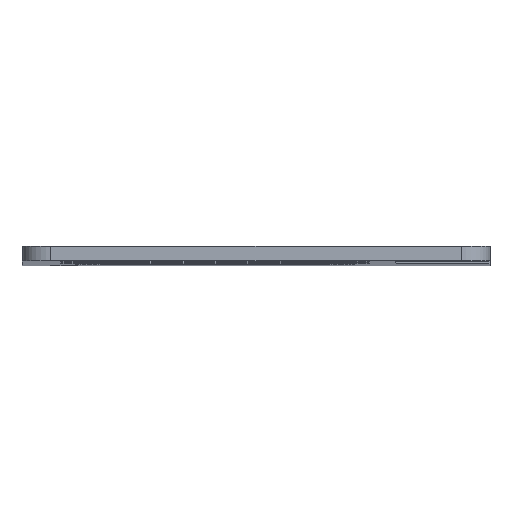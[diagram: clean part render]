
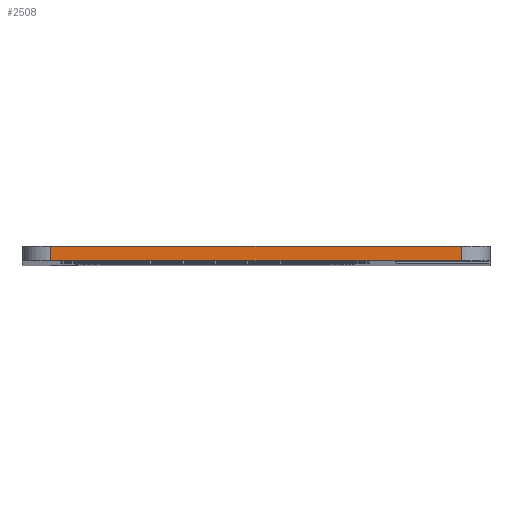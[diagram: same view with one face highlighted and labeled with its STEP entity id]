
A CAD part, top view. The second image highlights one B-rep face of the part: STEP entity #2508.
In plain terms, the highlighted planar face has unit normal (0, 0, 1).
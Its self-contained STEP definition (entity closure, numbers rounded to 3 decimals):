
#149=PLANE('',#2754);
#305=FACE_OUTER_BOUND('',#476,.T.);
#476=EDGE_LOOP('',(#2045,#2046,#2047,#2048));
#675=LINE('',#3970,#866);
#680=LINE('',#3982,#871);
#684=LINE('',#3993,#875);
#704=LINE('',#4030,#895);
#866=VECTOR('',#3264,10.);
#871=VECTOR('',#3275,10.);
#875=VECTOR('',#3285,10.);
#895=VECTOR('',#3327,10.);
#1239=VERTEX_POINT('',#3967);
#1240=VERTEX_POINT('',#3969);
#1244=VERTEX_POINT('',#3981);
#1247=VERTEX_POINT('',#3989);
#1520=EDGE_CURVE('',#1239,#1240,#675,.T.);
#1526=EDGE_CURVE('',#1240,#1244,#680,.T.);
#1532=EDGE_CURVE('',#1244,#1247,#684,.T.);
#1552=EDGE_CURVE('',#1247,#1239,#704,.T.);
#2045=ORIENTED_EDGE('',*,*,#1520,.F.);
#2046=ORIENTED_EDGE('',*,*,#1552,.F.);
#2047=ORIENTED_EDGE('',*,*,#1532,.F.);
#2048=ORIENTED_EDGE('',*,*,#1526,.F.);
#2508=ADVANCED_FACE('',(#305),#149,.T.);
#2754=AXIS2_PLACEMENT_3D('',#4029,#3325,#3326);
#3264=DIRECTION('',(0.,1.,0.));
#3275=DIRECTION('',(1.,0.,0.));
#3285=DIRECTION('',(0.,-1.,0.));
#3325=DIRECTION('center_axis',(0.,0.,1.));
#3326=DIRECTION('ref_axis',(-1.,0.,0.));
#3327=DIRECTION('',(-1.,0.,0.));
#3967=CARTESIAN_POINT('',(-34.,0.,80.786));
#3969=CARTESIAN_POINT('',(-34.,3.,80.786));
#3970=CARTESIAN_POINT('',(-34.,3.,80.786));
#3981=CARTESIAN_POINT('',(51.,3.,80.786));
#3982=CARTESIAN_POINT('',(-40.,3.,80.786));
#3989=CARTESIAN_POINT('',(51.,0.,80.786));
#3993=CARTESIAN_POINT('',(51.,3.,80.786));
#4029=CARTESIAN_POINT('Origin',(57.,3.,80.786));
#4030=CARTESIAN_POINT('',(-40.,0.,80.786));
